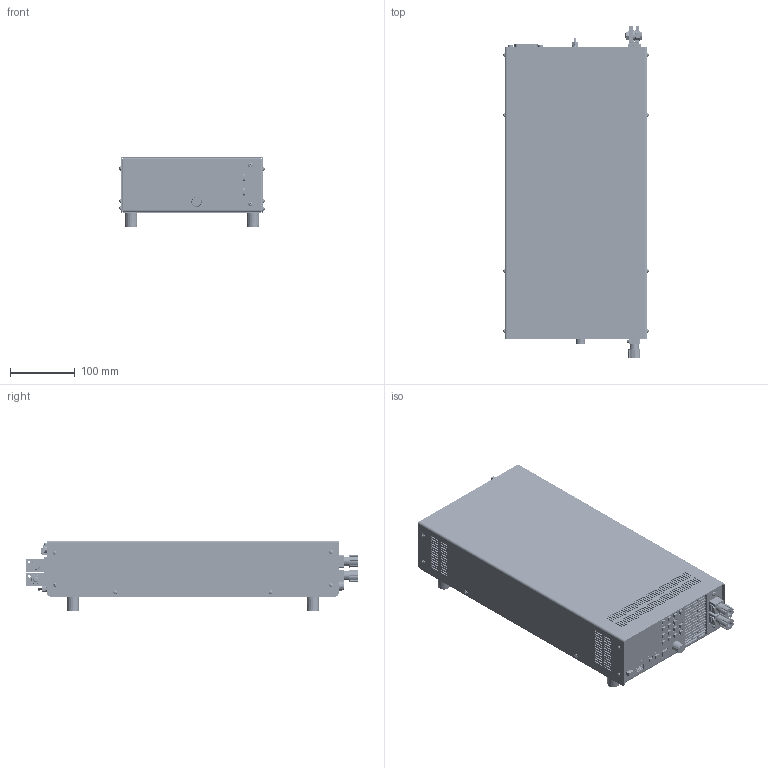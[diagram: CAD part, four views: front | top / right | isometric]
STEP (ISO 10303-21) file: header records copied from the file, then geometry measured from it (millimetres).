
FILE_DESCRIPTION(('STEP AP214'),'1');
FILE_NAME('PLI_M1_H19Z_2HE_BPK4_60L_FKS20_5_SM8_BRB_3D_03.step','2022-07-12T07:18:04',(' '),(' '),'Spatial InterOp 3D',' ',' ');
FILE_SCHEMA(('AUTOMOTIVE_DESIGN { 1 0 10303 214 1 1 1 1 }'));
Length unit declared in the file: millimetre
Products named in the file (25): 420_PLI_Halb19_Zoll_Deckel_3D_02; DIN 7985-AxM3 X 0.5x4; PEM_M3_; 1419_PLI_Halb19_Zoll_Rückwand_3D_05_mit_Einbauten_FKS20_5_BRB; 1F840730; 1E5E0040; *U245; 3xM2.5_5x5x12; *U246; *U247; *U248; *U249; *U250; *U251; *U252; 1419_PLI_Halb19_Zoll_Rückwand_3D_06; AutoCreatedBlock_1453; AutoCreatedBlock_1429; 1590_PLI_Frontpl_halb19Zoll_mit_Sil_Tast_3D_03_mit_Einbauten_und_Overlay_PBK4_60L_BRB; *U303; PLI_Frontplatteneinbauten_nur_für_3D_Modellkonstruktion_3D; A$C5F9A8610; AutoCreatedBlock_1455; AutoCreatedBlock_1419
Assembly tree (61 placements, depth 4):
  (unnamed)
    420_PLI_Halb19_Zoll_Deckel_3D_02
    DIN 7985-AxM3 X 0.5x4  x12
    PEM_M3_  x7
    1419_PLI_Halb19_Zoll_Rückwand_3D_05_mit_Einbauten_FKS20_5_BRB
      1F840730  x2
      1E5E0040
      *U245  x4
      3xM2.5_5x5x12  x2
      *U246  x2
      *U247  x2
      *U248  x2
      *U249  x2
      *U250
      *U251  x3
      *U252  x2
      1419_PLI_Halb19_Zoll_Rückwand_3D_06
        PEM_M3_  x7
        AutoCreatedBlock_1453
      AutoCreatedBlock_1429
    1590_PLI_Frontpl_halb19Zoll_mit_Sil_Tast_3D_03_mit_Einbauten_und_Overlay_PBK4_60L_BRB
      *U303  x2
      PLI_Frontplatteneinbauten_nur_für_3D_Modellkonstruktion_3D
      A$C5F9A8610
      AutoCreatedBlock_1455
    AutoCreatedBlock_1419
Bounding box: 224.31 x 512.22 x 109.5 mm (x, y, z)
Volume: 7834854.5 mm3; surface area: 1034415.7 mm2
Topology: 133 solids, 162 shells, 11107 faces, 29571 edges, 19352 vertices
Faces by surface type: plane 5871, cone 2572, cylinder 2141, bspline 205, torus 202, sphere 114, extrusion 2
Entity records: 377132 total; most frequent: CARTESIAN_POINT 71750, DIRECTION 47649, ORIENTED_EDGE 46358, EDGE_CURVE 23273, VECTOR 17453, LINE 17451, AXIS2_PLACEMENT_3D 15098, VERTEX_POINT 14812
